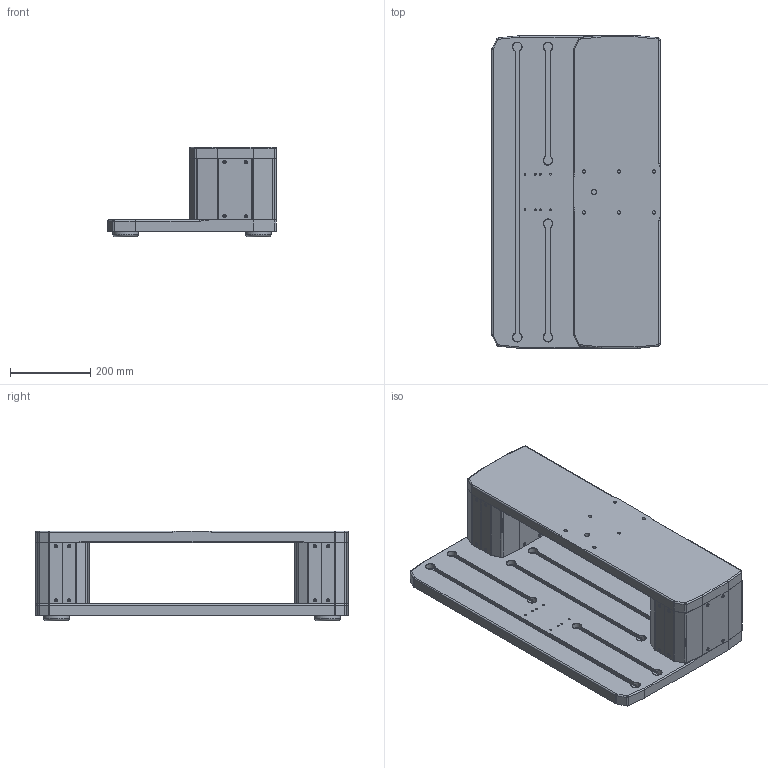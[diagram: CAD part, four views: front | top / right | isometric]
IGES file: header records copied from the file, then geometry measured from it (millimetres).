
Global section: file name: ESM303-002-1; native system: Autodesk RealDWG; preprocessor: Autodesk Translation Framework DWG producer (atf_dwg_producer); organization: unknown; date: 20211108.144221; units: inch
Bounding box: 418.59 x 776.73 x 223.27 mm (x, y, z)
Volume: 21985652.7 mm3; surface area: 1637577.2 mm2
Topology: 1 solids, 6 shells, 1765 faces, 4243 edges, 2671 vertices
Faces by surface type: bspline 1765
